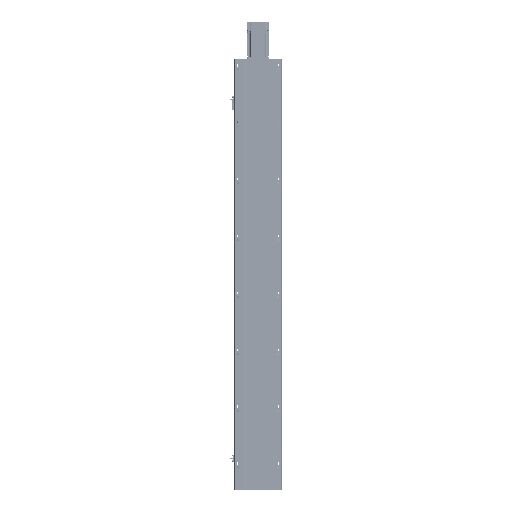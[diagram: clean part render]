
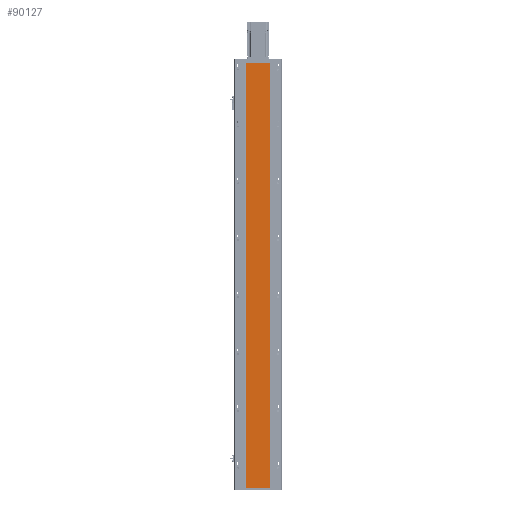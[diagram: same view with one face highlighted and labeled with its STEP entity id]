
A CAD part, front view. The second image highlights one B-rep face of the part: STEP entity #90127.
In plain terms, the highlighted planar face has unit normal (0, -1, 0).
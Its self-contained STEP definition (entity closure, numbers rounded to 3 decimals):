
#2206 = FACE_OUTER_BOUND ( 'NONE', #28153, .T. ) ;
#5947 = ORIENTED_EDGE ( 'NONE', *, *, #26991, .F. ) ;
#7245 = ORIENTED_EDGE ( 'NONE', *, *, #94552, .T. ) ;
#7922 = VERTEX_POINT ( 'NONE', #95376 ) ;
#10073 = VERTEX_POINT ( 'NONE', #53011 ) ;
#10953 = DIRECTION ( 'NONE',  ( 0., 0., -1. ) ) ;
#15251 = CARTESIAN_POINT ( 'NONE',  ( -42., 0., 0. ) ) ;
#18734 = DIRECTION ( 'NONE',  ( 1., 0., 0. ) ) ;
#23275 = VECTOR ( 'NONE', #39123, 1000. ) ;
#26991 = EDGE_CURVE ( 'NONE', #76211, #10073, #103524, .T. ) ;
#27602 = DIRECTION ( 'NONE',  ( 1., 0., 0. ) ) ;
#28153 = EDGE_LOOP ( 'NONE', ( #5947, #72874, #7245, #36382 ) ) ;
#30678 = LINE ( 'NONE', #102923, #96899 ) ;
#36325 = CARTESIAN_POINT ( 'NONE',  ( -42., 0., 0. ) ) ;
#36382 = ORIENTED_EDGE ( 'NONE', *, *, #59657, .T. ) ;
#39123 = DIRECTION ( 'NONE',  ( 0., 0., 1. ) ) ;
#45223 = PLANE ( 'NONE',  #78965 ) ;
#51179 = DIRECTION ( 'NONE',  ( 0., 0., 1. ) ) ;
#52192 = VECTOR ( 'NONE', #18734, 1000. ) ;
#53011 = CARTESIAN_POINT ( 'NONE',  ( 42., 0., 0. ) ) ;
#56465 = CARTESIAN_POINT ( 'NONE',  ( -42., 0., -1495. ) ) ;
#57580 = VECTOR ( 'NONE', #27602, 1000. ) ;
#59657 = EDGE_CURVE ( 'NONE', #7922, #10073, #30678, .T. ) ;
#60331 = LINE ( 'NONE', #104847, #52192 ) ;
#62602 = DIRECTION ( 'NONE',  ( 0., -1., 0. ) ) ;
#69302 = VERTEX_POINT ( 'NONE', #96684 ) ;
#72874 = ORIENTED_EDGE ( 'NONE', *, *, #110714, .F. ) ;
#76211 = VERTEX_POINT ( 'NONE', #15251 ) ;
#78965 = AXIS2_PLACEMENT_3D ( 'NONE', #105653, #62602, #10953 ) ;
#84107 = LINE ( 'NONE', #56465, #23275 ) ;
#90127 = ADVANCED_FACE ( 'NONE', ( #2206 ), #45223, .T. ) ;
#94552 = EDGE_CURVE ( 'NONE', #69302, #7922, #60331, .T. ) ;
#95376 = CARTESIAN_POINT ( 'NONE',  ( 42., 0., -1495. ) ) ;
#96684 = CARTESIAN_POINT ( 'NONE',  ( -42., 0., -1495. ) ) ;
#96899 = VECTOR ( 'NONE', #51179, 1000. ) ;
#102923 = CARTESIAN_POINT ( 'NONE',  ( 42., 0., -1495. ) ) ;
#103524 = LINE ( 'NONE', #36325, #57580 ) ;
#104847 = CARTESIAN_POINT ( 'NONE',  ( -42., 0., -1495. ) ) ;
#105653 = CARTESIAN_POINT ( 'NONE',  ( -42., 0., -1495. ) ) ;
#110714 = EDGE_CURVE ( 'NONE', #69302, #76211, #84107, .T. ) ;
